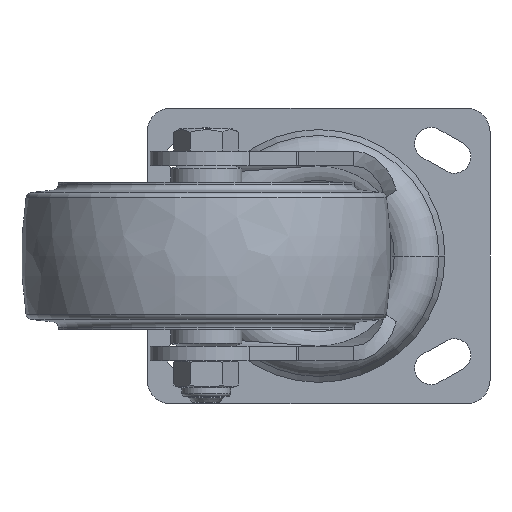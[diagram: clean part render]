
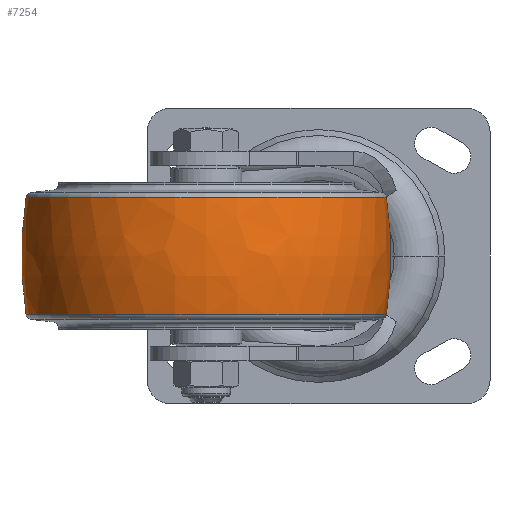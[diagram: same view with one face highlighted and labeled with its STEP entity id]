
A CAD part, front view. The second image highlights one B-rep face of the part: STEP entity #7254.
In plain terms, the highlighted free-form (B-spline) face has degree [3, 3] with [7, 4] control points.
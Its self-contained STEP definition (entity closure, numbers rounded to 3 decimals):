
#6915=CARTESIAN_POINT('',(-19.804,0.,0.));
#6916=DIRECTION('',(-1.,0.,0.));
#6917=DIRECTION('',(0.,1.,0.));
#6918=AXIS2_PLACEMENT_3D('',#6915,#6916,#6917);
#6920=CARTESIAN_POINT('',(0.,-64.241,0.));
#6921=DIRECTION('',(0.,0.,1.));
#6922=DIRECTION('',(0.156,0.988,0.));
#6923=AXIS2_PLACEMENT_3D('',#6920,#6921,#6922);
#6925=CARTESIAN_POINT('',(0.,64.241,
0.));
#6926=DIRECTION('',(0.,0.,-1.));
#6927=DIRECTION('',(0.156,-0.988,0.));
#6928=AXIS2_PLACEMENT_3D('',#6925,#6926,#6927);
#6930=CARTESIAN_POINT('',(19.804,0.,0.));
#6931=DIRECTION('',(-1.,0.,0.));
#6932=DIRECTION('',(0.,1.,0.));
#6933=AXIS2_PLACEMENT_3D('',#6930,#6931,#6932);
#7066=CARTESIAN_POINT('',(19.804,60.943,0.));
#7067=VERTEX_POINT('',#7066);
#7068=CARTESIAN_POINT('',(-19.804,60.943,0.));
#7069=VERTEX_POINT('',#7068);
#7090=CARTESIAN_POINT('',(19.804,-60.943,
0.));
#7091=VERTEX_POINT('',#7090);
#7092=CARTESIAN_POINT('',(-19.804,-60.943,
0.));
#7093=VERTEX_POINT('',#7092);
#7216=CARTESIAN_POINT('',(-20.589,-60.696,
3.819));
#7217=CARTESIAN_POINT('',(-6.924,-62.942,
3.96));
#7218=CARTESIAN_POINT('',(6.924,-62.942,3.96));
#7219=CARTESIAN_POINT('',(20.589,-60.696,3.819));
#7220=CARTESIAN_POINT('',(-20.589,-63.046,
-33.534));
#7221=CARTESIAN_POINT('',(-6.924,-65.379,
-34.774));
#7222=CARTESIAN_POINT('',(6.924,-65.379,
-34.774));
#7223=CARTESIAN_POINT('',(20.589,-63.046,
-33.534));
#7224=CARTESIAN_POINT('',(-20.589,-37.426,
-60.816));
#7225=CARTESIAN_POINT('',(-6.924,-38.811,
-63.066));
#7226=CARTESIAN_POINT('',(6.924,-38.811,
-63.066));
#7227=CARTESIAN_POINT('',(20.589,-37.426,
-60.816));
#7228=CARTESIAN_POINT('',(-20.589,0.,
-60.816));
#7229=CARTESIAN_POINT('',(-6.924,0.,
-63.066));
#7230=CARTESIAN_POINT('',(6.924,0.,
-63.066));
#7231=CARTESIAN_POINT('',(20.589,0.,
-60.816));
#7232=CARTESIAN_POINT('',(-20.589,37.426,
-60.816));
#7233=CARTESIAN_POINT('',(-6.924,38.811,
-63.066));
#7234=CARTESIAN_POINT('',(6.924,38.811,-63.066));
#7235=CARTESIAN_POINT('',(20.589,37.426,-60.816));
#7236=CARTESIAN_POINT('',(-20.589,63.046,
-33.534));
#7237=CARTESIAN_POINT('',(-6.924,65.379,
-34.774));
#7238=CARTESIAN_POINT('',(6.924,65.379,-34.774));
#7239=CARTESIAN_POINT('',(20.589,63.046,-33.534));
#7240=CARTESIAN_POINT('',(-20.589,60.696,3.819));
#7241=CARTESIAN_POINT('',(-6.924,62.942,3.96));
#7242=CARTESIAN_POINT('',(6.924,62.942,3.96));
#7243=CARTESIAN_POINT('',(20.589,60.696,3.819));
#7244=(BOUNDED_SURFACE()B_SPLINE_SURFACE(3,3,((#7216,#7217,#7218,#7219),(#7220,
#7221,#7222,#7223),(#7224,#7225,#7226,#7227),(#7228,#7229,#7230,#7231),(#7232,
#7233,#7234,#7235),(#7236,#7237,#7238,#7239),(#7240,#7241,#7242,#7243)),
.UNSPECIFIED.,.F.,.F.,.F.)B_SPLINE_SURFACE_WITH_KNOTS((4,3,4),(4,4),(0.,1.,
2.),(0.,1.),.UNSPECIFIED.)GEOMETRIC_REPRESENTATION_ITEM()RATIONAL_B_SPLINE_SURFACE(((1.195,1.185,1.185,1.195),(
0.944,0.935,0.935,0.944),(
0.944,0.935,0.935,0.944),(
1.195,1.185,1.185,1.195),(
0.944,0.935,0.935,0.944),(
0.944,0.935,0.935,0.944),(
1.195,1.185,1.185,1.195)))REPRESENTATION_ITEM('')SURFACE());
#7246=ORIENTED_EDGE('',*,*,#7245,.T.);
#7247=ORIENTED_EDGE('',*,*,#7211,.T.);
#7249=ORIENTED_EDGE('',*,*,#7248,.F.);
#7251=ORIENTED_EDGE('',*,*,#7250,.F.);
#7252=EDGE_LOOP('',(#7246,#7247,#7249,#7251));
#7253=FACE_OUTER_BOUND('',#7252,.F.);
#6919=CIRCLE('',#6918,60.943);
#6924=CIRCLE('',#6923,126.741);
#6929=CIRCLE('',#6928,126.741);
#6934=CIRCLE('',#6933,60.943);
#7211=EDGE_CURVE('',#7069,#7093,#6919,.T.);
#7245=EDGE_CURVE('',#7067,#7069,#6924,.T.);
#7248=EDGE_CURVE('',#7091,#7093,#6929,.T.);
#7250=EDGE_CURVE('',#7067,#7091,#6934,.T.);
#7254=ADVANCED_FACE('',(#7253),#7244,.T.);
